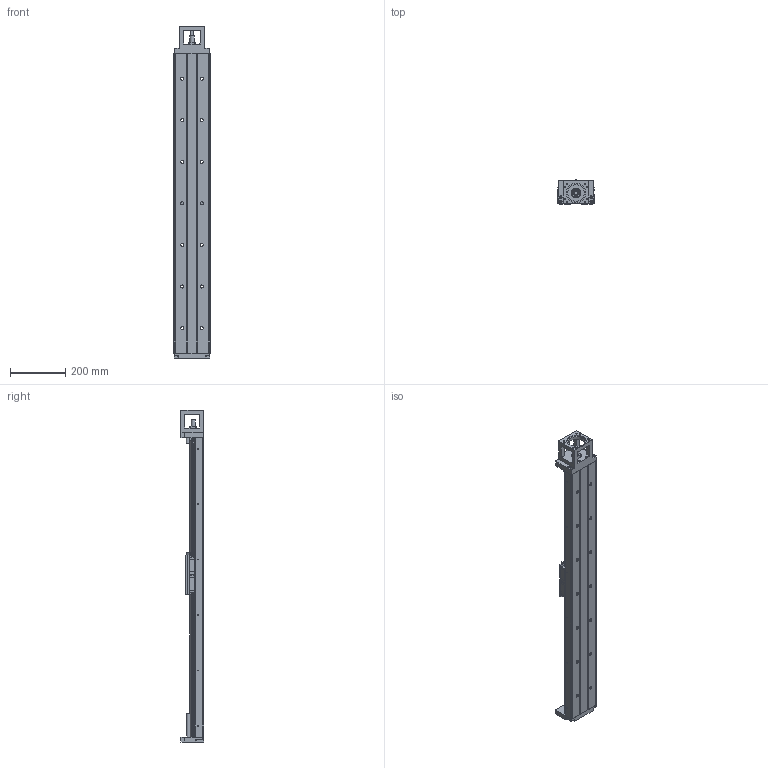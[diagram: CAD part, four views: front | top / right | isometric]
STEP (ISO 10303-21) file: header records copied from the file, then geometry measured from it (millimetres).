
FILE_DESCRIPTION(/* description */ (''),/* implementation_level */ '2;1');
FILE_NAME(/* name */ 'TKK130-1080A1FO_stp.stp',/* time_stamp */ '2017-08-18T10:19:53+08:00',/* author */ (''),/* organization */ (''),/* preprocessor_version */ 'ST-DEVELOPER v15',/* originating_system */ 'SIEMENS PLM Software NX 8.5',/* authorisation */ '');
FILE_SCHEMA (('AUTOMOTIVE_DESIGN { 1 0 10303 214 3 1 1 1 }'));
Length unit declared in the file: millimetre
Products named in the file (3): 02; 01; TKK130-1080A1FO_stp
Assembly tree (2 placements, depth 2):
  TKK130-1080A1FO_stp
    01
    02
Bounding box: 130 x 85 x 1198 mm (x, y, z)
Volume: 4601487.4 mm3; surface area: 758763.7 mm2
Topology: 2 solids, 38 shells, 981 faces, 2551 edges, 1651 vertices
Faces by surface type: plane 548, cylinder 278, cone 115, extrusion 33, bspline 6, torus 1
Full cylindrical faces by diameter (mm): 2.1 x12, 2.5 x4, 3.3 x56, 4.5 x16, 5 x23, 6.6 x10, 6.8 x8, 7 x2, 8 x8, 8.5 x4, 9 x8, 11 x18, 12 x4, 15 x1, 16.3 x1, 17 x16, 25 x1, 35 x2, 40 x3, 60.03 x1, 70.03 x1
Entity records: 29126 total; most frequent: CARTESIAN_POINT 6214, DIRECTION 4453, ORIENTED_EDGE 4074, EDGE_CURVE 2037, AXIS2_PLACEMENT_3D 1569, VERTEX_POINT 1542, EDGE_LOOP 1387, VECTOR 1315
